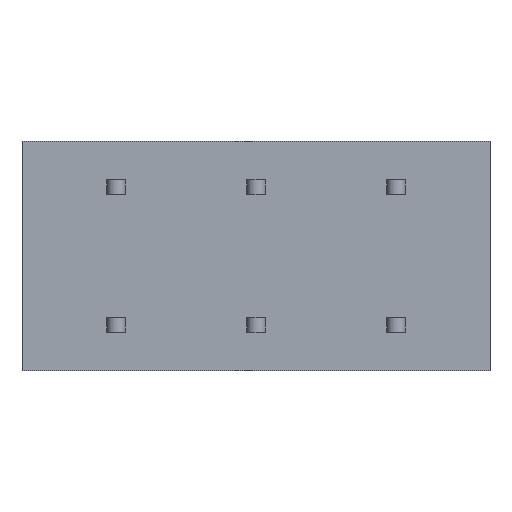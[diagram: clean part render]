
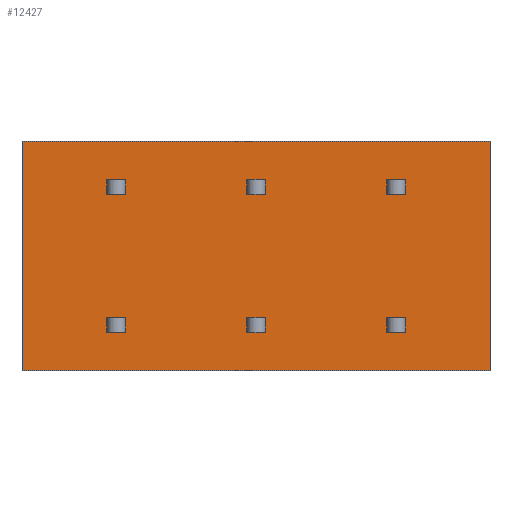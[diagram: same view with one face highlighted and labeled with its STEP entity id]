
A CAD part, front view. The second image highlights one B-rep face of the part: STEP entity #12427.
In plain terms, the highlighted planar face has unit normal (0, -1, 0).
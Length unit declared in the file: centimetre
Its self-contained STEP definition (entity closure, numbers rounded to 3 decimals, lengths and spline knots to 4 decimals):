
#828=VERTEX_POINT('',#15705);
#829=VERTEX_POINT('',#15706);
#832=VERTEX_POINT('',#15714);
#834=VERTEX_POINT('',#15720);
#835=VERTEX_POINT('',#15721);
#840=VERTEX_POINT('',#15734);
#857=VERTEX_POINT('',#15782);
#859=VERTEX_POINT('',#15790);
#1194=VERTEX_POINT('',#17294);
#1195=VERTEX_POINT('',#17296);
#1334=VERTEX_POINT('',#17761);
#1335=VERTEX_POINT('',#17762);
#1338=VERTEX_POINT('',#17770);
#1344=VERTEX_POINT('',#17785);
#1345=VERTEX_POINT('',#17786);
#1348=VERTEX_POINT('',#17794);
#1350=VERTEX_POINT('',#17800);
#1371=VERTEX_POINT('',#17861);
#1514=VERTEX_POINT('',#18352);
#1515=VERTEX_POINT('',#18353);
#1518=VERTEX_POINT('',#18361);
#1524=VERTEX_POINT('',#18376);
#1525=VERTEX_POINT('',#18377);
#1528=VERTEX_POINT('',#18385);
#1530=VERTEX_POINT('',#18391);
#1551=VERTEX_POINT('',#18452);
#1912=VERTEX_POINT('',#20032);
#1913=VERTEX_POINT('',#20034);
#2049=VECTOR('',#13210,1.);
#2052=VECTOR('',#13216,1.);
#2055=VECTOR('',#13220,1.);
#2061=VECTOR('',#13229,1.);
#2080=VECTOR('',#13267,1.);
#2083=VECTOR('',#13275,1.);
#2086=VECTOR('',#13283,1.);
#2087=VECTOR('',#13285,1.);
#2486=VECTOR('',#13825,1.);
#2621=VECTOR('',#14137,1.);
#2625=VECTOR('',#14142,1.);
#2631=VECTOR('',#14152,1.);
#2634=VECTOR('',#14158,1.);
#2637=VECTOR('',#14162,1.);
#2659=VECTOR('',#14211,1.);
#2660=VECTOR('',#14213,1.);
#2664=VECTOR('',#14218,1.);
#2809=VECTOR('',#14547,1.);
#2813=VECTOR('',#14552,1.);
#2819=VECTOR('',#14562,1.);
#2822=VECTOR('',#14568,1.);
#2825=VECTOR('',#14572,1.);
#2847=VECTOR('',#14621,1.);
#2848=VECTOR('',#14623,1.);
#2852=VECTOR('',#14628,1.);
#3288=VECTOR('',#15229,1.);
#3298=VECTOR('',#15244,1.);
#3299=VECTOR('',#15246,1.);
#3433=LINE('',#15704,#2049);
#3436=LINE('',#15713,#2052);
#3439=LINE('',#15719,#2055);
#3445=LINE('',#15733,#2061);
#3464=LINE('',#15781,#2080);
#3467=LINE('',#15789,#2083);
#3470=LINE('',#15797,#2086);
#3471=LINE('',#15799,#2087);
#3870=LINE('',#17295,#2486);
#4005=LINE('',#17760,#2621);
#4009=LINE('',#17769,#2625);
#4015=LINE('',#17784,#2631);
#4018=LINE('',#17793,#2634);
#4021=LINE('',#17799,#2637);
#4043=LINE('',#17858,#2659);
#4044=LINE('',#17860,#2660);
#4048=LINE('',#17867,#2664);
#4193=LINE('',#18351,#2809);
#4197=LINE('',#18360,#2813);
#4203=LINE('',#18375,#2819);
#4206=LINE('',#18384,#2822);
#4209=LINE('',#18390,#2825);
#4231=LINE('',#18449,#2847);
#4232=LINE('',#18451,#2848);
#4236=LINE('',#18458,#2852);
#4672=LINE('',#20033,#3288);
#4682=LINE('',#20052,#3298);
#4683=LINE('',#20054,#3299);
#4888=EDGE_CURVE('',#828,#829,#3433,.T.);
#4892=EDGE_CURVE('',#829,#832,#3436,.T.);
#4895=EDGE_CURVE('',#834,#835,#3439,.T.);
#4902=EDGE_CURVE('',#835,#840,#3445,.T.);
#4926=EDGE_CURVE('',#832,#857,#3464,.T.);
#4930=EDGE_CURVE('',#840,#859,#3467,.T.);
#4934=EDGE_CURVE('',#859,#834,#3470,.T.);
#4935=EDGE_CURVE('',#857,#828,#3471,.T.);
#5440=EDGE_CURVE('',#1195,#1194,#3870,.T.);
#5650=EDGE_CURVE('',#1334,#1335,#4005,.T.);
#5654=EDGE_CURVE('',#1338,#1334,#4009,.T.);
#5661=EDGE_CURVE('',#1344,#1345,#4015,.T.);
#5665=EDGE_CURVE('',#1348,#1344,#4018,.T.);
#5668=EDGE_CURVE('',#1350,#1348,#4021,.T.);
#5697=EDGE_CURVE('',#1345,#1350,#4043,.T.);
#5698=EDGE_CURVE('',#1371,#1338,#4044,.T.);
#5702=EDGE_CURVE('',#1335,#1371,#4048,.T.);
#5922=EDGE_CURVE('',#1514,#1515,#4193,.T.);
#5926=EDGE_CURVE('',#1518,#1514,#4197,.T.);
#5933=EDGE_CURVE('',#1524,#1525,#4203,.T.);
#5937=EDGE_CURVE('',#1528,#1524,#4206,.T.);
#5940=EDGE_CURVE('',#1530,#1528,#4209,.T.);
#5969=EDGE_CURVE('',#1525,#1530,#4231,.T.);
#5970=EDGE_CURVE('',#1551,#1518,#4232,.T.);
#5974=EDGE_CURVE('',#1515,#1551,#4236,.T.);
#6520=EDGE_CURVE('',#1913,#1912,#4672,.T.);
#6530=EDGE_CURVE('',#1913,#1194,#4682,.T.);
#6531=EDGE_CURVE('',#1912,#1195,#4683,.T.);
#10177=ORIENTED_EDGE('',*,*,#4930,.F.);
#10178=ORIENTED_EDGE('',*,*,#4902,.F.);
#10179=ORIENTED_EDGE('',*,*,#4895,.F.);
#10180=ORIENTED_EDGE('',*,*,#4934,.F.);
#10181=ORIENTED_EDGE('',*,*,#4926,.F.);
#10182=ORIENTED_EDGE('',*,*,#4892,.F.);
#10183=ORIENTED_EDGE('',*,*,#4888,.F.);
#10184=ORIENTED_EDGE('',*,*,#4935,.F.);
#10185=ORIENTED_EDGE('',*,*,#5926,.T.);
#10186=ORIENTED_EDGE('',*,*,#5922,.T.);
#10187=ORIENTED_EDGE('',*,*,#5974,.T.);
#10188=ORIENTED_EDGE('',*,*,#5970,.T.);
#10189=ORIENTED_EDGE('',*,*,#5940,.T.);
#10190=ORIENTED_EDGE('',*,*,#5937,.T.);
#10191=ORIENTED_EDGE('',*,*,#5933,.T.);
#10192=ORIENTED_EDGE('',*,*,#5969,.T.);
#10193=ORIENTED_EDGE('',*,*,#5668,.T.);
#10194=ORIENTED_EDGE('',*,*,#5665,.T.);
#10195=ORIENTED_EDGE('',*,*,#5661,.T.);
#10196=ORIENTED_EDGE('',*,*,#5697,.T.);
#10197=ORIENTED_EDGE('',*,*,#5654,.T.);
#10198=ORIENTED_EDGE('',*,*,#5650,.T.);
#10199=ORIENTED_EDGE('',*,*,#5702,.T.);
#10200=ORIENTED_EDGE('',*,*,#5698,.T.);
#10201=ORIENTED_EDGE('',*,*,#6520,.T.);
#10202=ORIENTED_EDGE('',*,*,#6531,.T.);
#10203=ORIENTED_EDGE('',*,*,#5440,.T.);
#10204=ORIENTED_EDGE('',*,*,#6530,.F.);
#10976=EDGE_LOOP('',(#10177,#10178,#10179,#10180));
#10977=EDGE_LOOP('',(#10181,#10182,#10183,#10184));
#10978=EDGE_LOOP('',(#10185,#10186,#10187,#10188));
#10979=EDGE_LOOP('',(#10189,#10190,#10191,#10192));
#10980=EDGE_LOOP('',(#10193,#10194,#10195,#10196));
#10981=EDGE_LOOP('',(#10197,#10198,#10199,#10200));
#10982=EDGE_LOOP('',(#10201,#10202,#10203,#10204));
#11732=FACE_BOUND('',#10976,.T.);
#11733=FACE_BOUND('',#10977,.T.);
#11734=FACE_BOUND('',#10978,.T.);
#11735=FACE_BOUND('',#10979,.T.);
#11736=FACE_BOUND('',#10980,.T.);
#11737=FACE_BOUND('',#10981,.T.);
#11738=FACE_BOUND('',#10982,.T.);
#12427=ADVANCED_FACE('',(#11732,#11733,#11734,#11735,#11736,#11737,#11738),
#12909,.T.);
#12909=PLANE('',#20775);
#13210=DIRECTION('',(1.,0.,0.));
#13216=DIRECTION('',(0.,0.,1.));
#13220=DIRECTION('',(-1.,0.,0.));
#13229=DIRECTION('',(0.,0.,-1.));
#13267=DIRECTION('',(-1.,0.,0.));
#13275=DIRECTION('',(1.,0.,0.));
#13283=DIRECTION('',(0.,0.,1.));
#13285=DIRECTION('',(0.,0.,-1.));
#13825=DIRECTION('',(0.,0.,1.));
#14137=DIRECTION('',(0.,0.,-1.));
#14142=DIRECTION('',(1.,0.,0.));
#14152=DIRECTION('',(1.,0.,0.));
#14158=DIRECTION('',(0.,0.,1.));
#14162=DIRECTION('',(-1.,0.,0.));
#14211=DIRECTION('',(0.,0.,-1.));
#14213=DIRECTION('',(0.,0.,1.));
#14218=DIRECTION('',(-1.,0.,0.));
#14547=DIRECTION('',(0.,0.,-1.));
#14552=DIRECTION('',(1.,0.,0.));
#14562=DIRECTION('',(1.,0.,0.));
#14568=DIRECTION('',(0.,0.,1.));
#14572=DIRECTION('',(-1.,0.,0.));
#14621=DIRECTION('',(0.,0.,-1.));
#14623=DIRECTION('',(0.,0.,1.));
#14628=DIRECTION('',(-1.,0.,0.));
#15229=DIRECTION('',(0.,0.,-1.));
#15244=DIRECTION('',(1.,0.,0.));
#15245=DIRECTION('',(0.,-1.,0.));
#15246=DIRECTION('',(1.,0.,0.));
#15704=CARTESIAN_POINT('',(-0.465,0.,-0.415));
#15705=CARTESIAN_POINT('',(-0.36,0.,-0.415));
#15706=CARTESIAN_POINT('',(-0.26,0.,-0.415));
#15713=CARTESIAN_POINT('',(-0.26,0.,-0.1875));
#15714=CARTESIAN_POINT('',(-0.26,0.,-0.335));
#15719=CARTESIAN_POINT('',(-0.465,0.,0.415));
#15720=CARTESIAN_POINT('',(-0.26,0.,0.415));
#15721=CARTESIAN_POINT('',(-0.36,0.,0.415));
#15733=CARTESIAN_POINT('',(-0.36,0.,0.1875));
#15734=CARTESIAN_POINT('',(-0.36,0.,0.335));
#15781=CARTESIAN_POINT('',(-0.465,0.,-0.335));
#15782=CARTESIAN_POINT('',(-0.36,0.,-0.335));
#15789=CARTESIAN_POINT('',(-0.465,0.,0.335));
#15790=CARTESIAN_POINT('',(-0.26,0.,0.335));
#15797=CARTESIAN_POINT('',(-0.26,0.,0.1875));
#15799=CARTESIAN_POINT('',(-0.36,0.,-0.1875));
#17294=CARTESIAN_POINT('',(1.726,0.,0.625));
#17295=CARTESIAN_POINT('',(1.726,0.,0.625));
#17296=CARTESIAN_POINT('',(1.726,0.,-0.625));
#17760=CARTESIAN_POINT('',(1.264,0.,-0.1875));
#17761=CARTESIAN_POINT('',(1.264,0.,-0.335));
#17762=CARTESIAN_POINT('',(1.264,0.,-0.415));
#17769=CARTESIAN_POINT('',(0.607,0.,-0.335));
#17770=CARTESIAN_POINT('',(1.164,0.,-0.335));
#17784=CARTESIAN_POINT('',(0.607,0.,0.415));
#17785=CARTESIAN_POINT('',(1.164,0.,0.415));
#17786=CARTESIAN_POINT('',(1.264,0.,0.415));
#17793=CARTESIAN_POINT('',(1.164,0.,0.1875));
#17794=CARTESIAN_POINT('',(1.164,0.,0.335));
#17799=CARTESIAN_POINT('',(0.607,0.,0.335));
#17800=CARTESIAN_POINT('',(1.264,0.,0.335));
#17858=CARTESIAN_POINT('',(1.264,0.,0.1875));
#17860=CARTESIAN_POINT('',(1.164,0.,-0.1875));
#17861=CARTESIAN_POINT('',(1.164,0.,-0.415));
#17867=CARTESIAN_POINT('',(0.607,0.,-0.415));
#18351=CARTESIAN_POINT('',(0.502,0.,-0.1875));
#18352=CARTESIAN_POINT('',(0.502,0.,-0.335));
#18353=CARTESIAN_POINT('',(0.502,0.,-0.415));
#18360=CARTESIAN_POINT('',(0.226,0.,-0.335));
#18361=CARTESIAN_POINT('',(0.402,0.,-0.335));
#18375=CARTESIAN_POINT('',(0.226,0.,0.415));
#18376=CARTESIAN_POINT('',(0.402,0.,0.415));
#18377=CARTESIAN_POINT('',(0.502,0.,0.415));
#18384=CARTESIAN_POINT('',(0.402,0.,0.1875));
#18385=CARTESIAN_POINT('',(0.402,0.,0.335));
#18390=CARTESIAN_POINT('',(0.226,0.,0.335));
#18391=CARTESIAN_POINT('',(0.502,0.,0.335));
#18449=CARTESIAN_POINT('',(0.502,0.,0.1875));
#18451=CARTESIAN_POINT('',(0.402,0.,-0.1875));
#18452=CARTESIAN_POINT('',(0.402,0.,-0.415));
#18458=CARTESIAN_POINT('',(0.226,0.,-0.415));
#20032=CARTESIAN_POINT('',(-0.822,0.,-0.625));
#20033=CARTESIAN_POINT('',(-0.822,0.,-0.625));
#20034=CARTESIAN_POINT('',(-0.822,0.,0.625));
#20052=CARTESIAN_POINT('',(-0.762,0.,0.625));
#20053=CARTESIAN_POINT('',(-0.762,0.,0.));
#20054=CARTESIAN_POINT('',(-0.762,0.,-0.625));
#20775=AXIS2_PLACEMENT_3D('',#20053,#15245,$);
